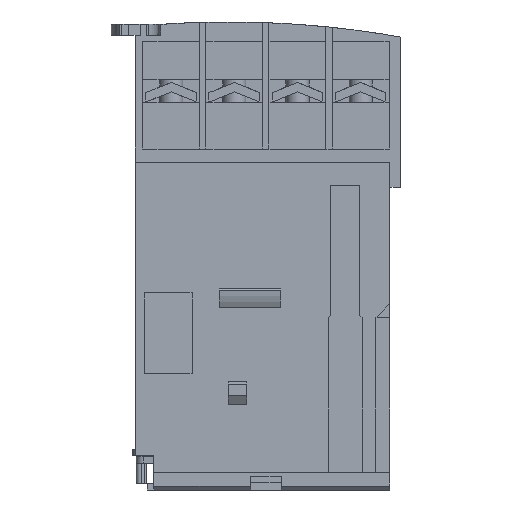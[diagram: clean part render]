
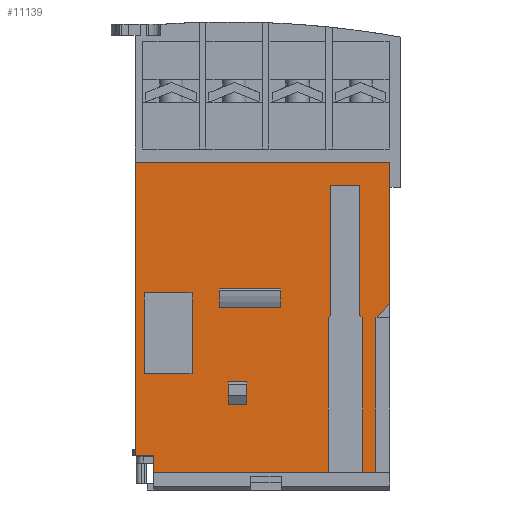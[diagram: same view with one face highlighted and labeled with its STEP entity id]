
A CAD part, front view. The second image highlights one B-rep face of the part: STEP entity #11139.
In plain terms, the highlighted planar face has unit normal (0, -1, 0).
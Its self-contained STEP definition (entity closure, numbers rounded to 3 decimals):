
#3392=DIRECTION('',(0.,0.,1.));
#3393=VECTOR('',#3392,38.1);
#3394=CARTESIAN_POINT('',(0.,4.25,4.5));
#3395=LINE('',#3394,#3393);
#3469=DIRECTION('',(0.,0.,-1.));
#3470=VECTOR('',#3469,3.3);
#3471=CARTESIAN_POINT('',(33.1,4.25,42.6));
#3472=LINE('',#3471,#3470);
#4305=DIRECTION('',(1.,0.,0.));
#4306=VECTOR('',#4305,2.4);
#4307=CARTESIAN_POINT('',(0.,4.25,4.5));
#4308=LINE('',#4307,#4306);
#4453=DIRECTION('',(-1.,0.,0.));
#4454=VECTOR('',#4453,1.7);
#4455=CARTESIAN_POINT('',(31.3,4.25,2.3));
#4456=LINE('',#4455,#4454);
#4460=DIRECTION('',(0.,0.,1.));
#4461=VECTOR('',#4460,20.1);
#4462=CARTESIAN_POINT('',(29.6,4.25,2.3));
#4463=LINE('',#4462,#4461);
#4467=DIRECTION('',(-1.,0.,0.));
#4468=VECTOR('',#4467,0.1);
#4469=CARTESIAN_POINT('',(29.6,4.25,22.4));
#4470=LINE('',#4469,#4468);
#4474=DIRECTION('',(-0.707,0.,0.707));
#4475=VECTOR('',#4474,0.424);
#4476=CARTESIAN_POINT('',(29.5,4.25,22.4));
#4477=LINE('',#4476,#4475);
#4481=DIRECTION('',(0.,0.,1.));
#4482=VECTOR('',#4481,16.9);
#4483=CARTESIAN_POINT('',(29.2,4.25,22.7));
#4484=LINE('',#4483,#4482);
#4488=DIRECTION('',(-1.,0.,0.));
#4489=VECTOR('',#4488,3.8);
#4490=CARTESIAN_POINT('',(29.2,4.25,39.6));
#4491=LINE('',#4490,#4489);
#4495=DIRECTION('',(0.,0.,-1.));
#4496=VECTOR('',#4495,16.9);
#4497=CARTESIAN_POINT('',(25.4,4.25,39.6));
#4498=LINE('',#4497,#4496);
#4502=DIRECTION('',(-0.707,0.,-0.707));
#4503=VECTOR('',#4502,0.424);
#4504=CARTESIAN_POINT('',(25.4,4.25,22.7));
#4505=LINE('',#4504,#4503);
#4509=DIRECTION('',(0.,0.,1.));
#4510=VECTOR('',#4509,20.1);
#4511=CARTESIAN_POINT('',(25.1,4.25,2.3));
#4512=LINE('',#4511,#4510);
#4516=DIRECTION('',(-1.,0.,0.));
#4517=VECTOR('',#4516,22.7);
#4518=CARTESIAN_POINT('',(25.1,4.25,2.3));
#4519=LINE('',#4518,#4517);
#4523=DIRECTION('',(0.,0.,1.));
#4524=VECTOR('',#4523,2.2);
#4525=CARTESIAN_POINT('',(2.4,4.25,2.3));
#4526=LINE('',#4525,#4524);
#4530=DIRECTION('',(1.,0.,0.));
#4531=VECTOR('',#4530,33.1);
#4532=CARTESIAN_POINT('',(0.,4.25,42.6));
#4533=LINE('',#4532,#4531);
#4537=DIRECTION('',(-0.707,0.,-0.707));
#4538=VECTOR('',#4537,2.546);
#4539=CARTESIAN_POINT('',(33.1,4.25,24.2));
#4540=LINE('',#4539,#4538);
#4544=DIRECTION('',(0.,0.,1.));
#4545=VECTOR('',#4544,20.1);
#4546=CARTESIAN_POINT('',(31.3,4.25,2.3));
#4547=LINE('',#4546,#4545);
#4551=DIRECTION('',(1.,0.,0.));
#4552=VECTOR('',#4551,6.2);
#4553=CARTESIAN_POINT('',(1.2,4.25,15.1));
#4554=LINE('',#4553,#4552);
#4558=DIRECTION('',(0.,0.,1.));
#4559=VECTOR('',#4558,10.5);
#4560=CARTESIAN_POINT('',(7.4,4.25,15.1));
#4561=LINE('',#4560,#4559);
#4565=DIRECTION('',(-1.,0.,0.));
#4566=VECTOR('',#4565,6.2);
#4567=CARTESIAN_POINT('',(7.4,4.25,25.6));
#4568=LINE('',#4567,#4566);
#4572=DIRECTION('',(0.,0.,-1.));
#4573=VECTOR('',#4572,10.5);
#4574=CARTESIAN_POINT('',(1.2,4.25,25.6));
#4575=LINE('',#4574,#4573);
#4579=DIRECTION('',(0.,0.,-1.));
#4580=VECTOR('',#4579,2.551);
#4581=CARTESIAN_POINT('',(10.95,4.25,26.2));
#4582=LINE('',#4581,#4580);
#4586=DIRECTION('',(-1.,0.,0.));
#4587=VECTOR('',#4586,8.);
#4588=CARTESIAN_POINT('',(18.95,4.25,23.649));
#4589=LINE('',#4588,#4587);
#4593=DIRECTION('',(0.,0.,-1.));
#4594=VECTOR('',#4593,2.551);
#4595=CARTESIAN_POINT('',(18.95,4.25,26.2));
#4596=LINE('',#4595,#4594);
#4600=DIRECTION('',(-1.,0.,0.));
#4601=VECTOR('',#4600,8.);
#4602=CARTESIAN_POINT('',(18.95,4.25,26.2));
#4603=LINE('',#4602,#4601);
#4607=DIRECTION('',(0.,0.,-1.));
#4608=VECTOR('',#4607,3.);
#4609=CARTESIAN_POINT('',(12.1,4.25,14.1));
#4610=LINE('',#4609,#4608);
#4614=DIRECTION('',(-1.,0.,0.));
#4615=VECTOR('',#4614,2.4);
#4616=CARTESIAN_POINT('',(14.5,4.25,11.1));
#4617=LINE('',#4616,#4615);
#4621=DIRECTION('',(0.,0.,-1.));
#4622=VECTOR('',#4621,3.);
#4623=CARTESIAN_POINT('',(14.5,4.25,14.1));
#4624=LINE('',#4623,#4622);
#4628=DIRECTION('',(-1.,0.,0.));
#4629=VECTOR('',#4628,2.4);
#4630=CARTESIAN_POINT('',(14.5,4.25,14.1));
#4631=LINE('',#4630,#4629);
#4698=DIRECTION('',(0.,0.,-1.));
#4699=VECTOR('',#4698,15.1);
#4700=CARTESIAN_POINT('',(33.1,4.25,39.3));
#4701=LINE('',#4700,#4699);
#5974=CARTESIAN_POINT('',(33.1,4.25,39.3));
#5975=VERTEX_POINT('',#5974);
#5976=CARTESIAN_POINT('',(33.1,4.25,42.6));
#5977=VERTEX_POINT('',#5976);
#5978=CARTESIAN_POINT('',(0.,4.25,42.6));
#5979=VERTEX_POINT('',#5978);
#6352=CARTESIAN_POINT('',(0.,4.25,4.5));
#6354=VERTEX_POINT('',#6352);
#6374=CARTESIAN_POINT('',(2.4,4.25,4.5));
#6375=VERTEX_POINT('',#6374);
#6488=CARTESIAN_POINT('',(29.2,4.25,39.6));
#6489=CARTESIAN_POINT('',(25.4,4.25,39.6));
#6490=VERTEX_POINT('',#6488);
#6491=VERTEX_POINT('',#6489);
#6492=CARTESIAN_POINT('',(25.4,4.25,22.7));
#6493=VERTEX_POINT('',#6492);
#6494=CARTESIAN_POINT('',(25.1,4.25,22.4));
#6495=VERTEX_POINT('',#6494);
#6496=CARTESIAN_POINT('',(29.6,4.25,22.4));
#6497=CARTESIAN_POINT('',(29.5,4.25,22.4));
#6498=VERTEX_POINT('',#6496);
#6499=VERTEX_POINT('',#6497);
#6500=CARTESIAN_POINT('',(29.2,4.25,22.7));
#6501=VERTEX_POINT('',#6500);
#6502=CARTESIAN_POINT('',(33.1,4.25,24.2));
#6503=CARTESIAN_POINT('',(31.3,4.25,22.4));
#6504=VERTEX_POINT('',#6502);
#6505=VERTEX_POINT('',#6503);
#6546=CARTESIAN_POINT('',(31.3,4.25,2.3));
#6547=CARTESIAN_POINT('',(29.6,4.25,2.3));
#6548=VERTEX_POINT('',#6546);
#6549=VERTEX_POINT('',#6547);
#6550=CARTESIAN_POINT('',(25.1,4.25,2.3));
#6551=CARTESIAN_POINT('',(2.4,4.25,2.3));
#6552=VERTEX_POINT('',#6550);
#6553=VERTEX_POINT('',#6551);
#6618=CARTESIAN_POINT('',(1.2,4.25,15.1));
#6619=CARTESIAN_POINT('',(7.4,4.25,15.1));
#6620=VERTEX_POINT('',#6618);
#6621=VERTEX_POINT('',#6619);
#6622=CARTESIAN_POINT('',(7.4,4.25,25.6));
#6623=VERTEX_POINT('',#6622);
#6624=CARTESIAN_POINT('',(1.2,4.25,25.6));
#6625=VERTEX_POINT('',#6624);
#6634=CARTESIAN_POINT('',(12.1,4.25,14.1));
#6635=CARTESIAN_POINT('',(12.1,4.25,11.1));
#6636=VERTEX_POINT('',#6634);
#6637=VERTEX_POINT('',#6635);
#6638=CARTESIAN_POINT('',(14.5,4.25,14.1));
#6639=CARTESIAN_POINT('',(14.5,4.25,11.1));
#6640=VERTEX_POINT('',#6638);
#6641=VERTEX_POINT('',#6639);
#6650=CARTESIAN_POINT('',(10.95,4.25,26.2));
#6651=CARTESIAN_POINT('',(10.95,4.25,23.649));
#6652=VERTEX_POINT('',#6650);
#6653=VERTEX_POINT('',#6651);
#6654=CARTESIAN_POINT('',(18.95,4.25,26.2));
#6655=CARTESIAN_POINT('',(18.95,4.25,23.649));
#6656=VERTEX_POINT('',#6654);
#6657=VERTEX_POINT('',#6655);
#11071=CARTESIAN_POINT('',(0.,4.25,42.6));
#11072=DIRECTION('',(0.,1.,0.));
#11073=DIRECTION('',(0.,0.,-1.));
#11074=AXIS2_PLACEMENT_3D('',#11071,#11072,#11073);
#11075=PLANE('',#11074);
#11077=ORIENTED_EDGE('',*,*,#11076,.T.);
#11079=ORIENTED_EDGE('',*,*,#11078,.T.);
#11081=ORIENTED_EDGE('',*,*,#11080,.T.);
#11083=ORIENTED_EDGE('',*,*,#11082,.T.);
#11085=ORIENTED_EDGE('',*,*,#11084,.T.);
#11087=ORIENTED_EDGE('',*,*,#11086,.T.);
#11089=ORIENTED_EDGE('',*,*,#11088,.T.);
#11091=ORIENTED_EDGE('',*,*,#11090,.T.);
#11093=ORIENTED_EDGE('',*,*,#11092,.F.);
#11095=ORIENTED_EDGE('',*,*,#11094,.T.);
#11096=ORIENTED_EDGE('',*,*,#10694,.T.);
#11097=ORIENTED_EDGE('',*,*,#10920,.F.);
#11098=ORIENTED_EDGE('',*,*,#10270,.T.);
#11099=ORIENTED_EDGE('',*,*,#10302,.T.);
#11100=ORIENTED_EDGE('',*,*,#10316,.T.);
#11102=ORIENTED_EDGE('',*,*,#11101,.T.);
#11104=ORIENTED_EDGE('',*,*,#11103,.T.);
#11106=ORIENTED_EDGE('',*,*,#11105,.F.);
#11107=EDGE_LOOP('',(#11077,#11079,#11081,#11083,#11085,#11087,#11089,#11091,
#11093,#11095,#11096,#11097,#11098,#11099,#11100,#11102,#11104,#11106));
#11108=FACE_OUTER_BOUND('',#11107,.F.);
#11110=ORIENTED_EDGE('',*,*,#11109,.T.);
#11112=ORIENTED_EDGE('',*,*,#11111,.T.);
#11114=ORIENTED_EDGE('',*,*,#11113,.T.);
#11116=ORIENTED_EDGE('',*,*,#11115,.T.);
#11117=EDGE_LOOP('',(#11110,#11112,#11114,#11116));
#11118=FACE_BOUND('',#11117,.F.);
#11120=ORIENTED_EDGE('',*,*,#11119,.T.);
#11122=ORIENTED_EDGE('',*,*,#11121,.F.);
#11124=ORIENTED_EDGE('',*,*,#11123,.F.);
#11126=ORIENTED_EDGE('',*,*,#11125,.T.);
#11127=EDGE_LOOP('',(#11120,#11122,#11124,#11126));
#11128=FACE_BOUND('',#11127,.F.);
#11130=ORIENTED_EDGE('',*,*,#11129,.T.);
#11132=ORIENTED_EDGE('',*,*,#11131,.F.);
#11134=ORIENTED_EDGE('',*,*,#11133,.F.);
#11136=ORIENTED_EDGE('',*,*,#11135,.T.);
#11137=EDGE_LOOP('',(#11130,#11132,#11134,#11136));
#11138=FACE_BOUND('',#11137,.F.);
#10270=EDGE_CURVE('',#6354,#5979,#3395,.T.);
#10302=EDGE_CURVE('',#5979,#5977,#4533,.T.);
#10316=EDGE_CURVE('',#5977,#5975,#3472,.T.);
#10694=EDGE_CURVE('',#6553,#6375,#4526,.T.);
#10920=EDGE_CURVE('',#6354,#6375,#4308,.T.);
#11076=EDGE_CURVE('',#6548,#6549,#4456,.T.);
#11078=EDGE_CURVE('',#6549,#6498,#4463,.T.);
#11080=EDGE_CURVE('',#6498,#6499,#4470,.T.);
#11082=EDGE_CURVE('',#6499,#6501,#4477,.T.);
#11084=EDGE_CURVE('',#6501,#6490,#4484,.T.);
#11086=EDGE_CURVE('',#6490,#6491,#4491,.T.);
#11088=EDGE_CURVE('',#6491,#6493,#4498,.T.);
#11090=EDGE_CURVE('',#6493,#6495,#4505,.T.);
#11092=EDGE_CURVE('',#6552,#6495,#4512,.T.);
#11094=EDGE_CURVE('',#6552,#6553,#4519,.T.);
#11101=EDGE_CURVE('',#5975,#6504,#4701,.T.);
#11103=EDGE_CURVE('',#6504,#6505,#4540,.T.);
#11105=EDGE_CURVE('',#6548,#6505,#4547,.T.);
#11109=EDGE_CURVE('',#6620,#6621,#4554,.T.);
#11111=EDGE_CURVE('',#6621,#6623,#4561,.T.);
#11113=EDGE_CURVE('',#6623,#6625,#4568,.T.);
#11115=EDGE_CURVE('',#6625,#6620,#4575,.T.);
#11119=EDGE_CURVE('',#6652,#6653,#4582,.T.);
#11121=EDGE_CURVE('',#6657,#6653,#4589,.T.);
#11123=EDGE_CURVE('',#6656,#6657,#4596,.T.);
#11125=EDGE_CURVE('',#6656,#6652,#4603,.T.);
#11129=EDGE_CURVE('',#6636,#6637,#4610,.T.);
#11131=EDGE_CURVE('',#6641,#6637,#4617,.T.);
#11133=EDGE_CURVE('',#6640,#6641,#4624,.T.);
#11135=EDGE_CURVE('',#6640,#6636,#4631,.T.);
#11139=ADVANCED_FACE('',(#11108,#11118,#11128,#11138),#11075,.F.);
